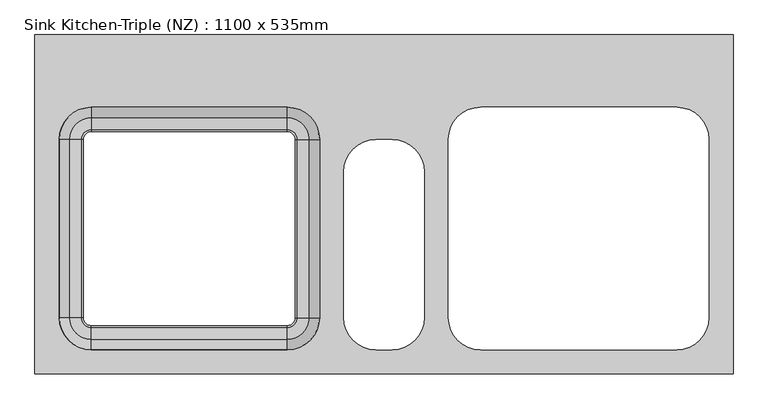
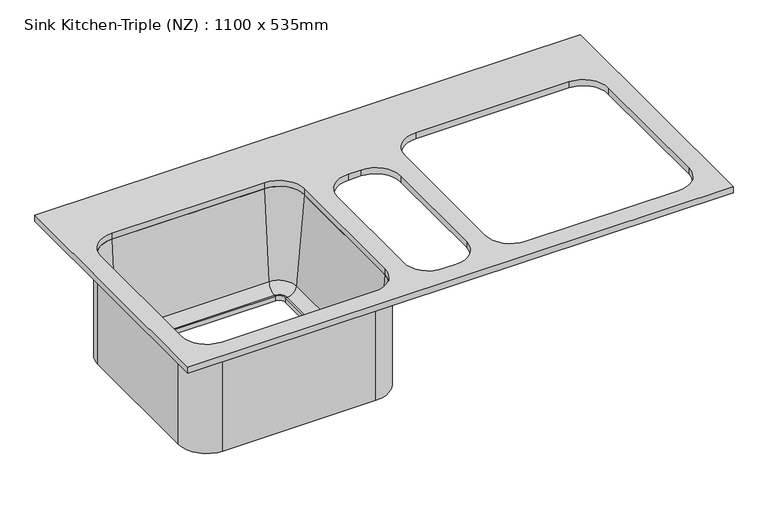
"""IFC4 building model written with IfcOpenShell, lengths in millimetres: flow terminal geometry, Sink Kitchen-Triple (NZ) : 1100 x 535mm."""

from ifc_helpers import new_model, si_unit, point, frame, frame_2d, origin, place, context, project, spatial, polyline, circle_curve, ellipse_curve, trimmed, segment, composite_curve, outline, extrude, source, transform, mapped, element, save
from ifc_brep_helpers import plane_surface, cylinder_surface, revolved_surface, advanced_brep


def sink_kitchen_triple_nz_1100_x_535mm_59c7ceb9(model_context):
    return source(origin(), model_context, "Body", "SolidModel", [
        advanced_brep(
        [(-79.5607594, 104.7454011, 684.1), (-136.7107594, 161.8954011, 684.1), (-136.7107594, 161.8954011, 900.0), (-79.5607594, 104.7454011, 900.0), (-124.0107594, 104.7454011, 684.1), (-136.7107594, 117.4454011, 684.1), (-124.0107594, 104.7454011, 693.625), (-136.7107594, 117.4454011, 693.625), (-121.4223412, 104.7454011, 693.625), (-136.7107594, 120.0338193, 693.625), (-102.4448322, 104.7454011, 711.0146831), (-136.7107594, 139.0113283, 711.0146831), (-85.9107594, 104.7454011, 900.0), (-136.7107594, 155.5454011, 900.0), (-79.5607594, -176.2545989, 900.0), (-79.5607594, -176.2545989, 684.1), (-124.0107594, -176.2545989, 684.1), (-124.0107594, -176.2545989, 693.625), (-121.4223412, -176.2545989, 693.625), (-102.4448322, -176.2545989, 711.0146831), (-85.9107594, -176.2545989, 900.0), (-136.7107594, -233.4045989, 684.1), (-136.7107594, -233.4045989, 900.0), (-136.7107594, -188.9545989, 684.1), (-136.7107594, -188.9545989, 693.625), (-136.7107594, -191.5430171, 693.625), (-136.7107594, -210.5205261, 711.0146831), (-136.7107594, -227.0545989, 900.0), (-445.4107594, -233.4045989, 900.0), (-445.4107594, -233.4045989, 684.1), (-445.4107594, -188.9545989, 684.1), (-445.4107594, -188.9545989, 693.625), (-445.4107594, -191.5430171, 693.625), (-445.4107594, -210.5205261, 711.0146831), (-445.4107594, -227.0545989, 900.0), (-502.5607594, -176.2545989, 684.1), (-502.5607594, -176.2545989, 900.0), (-458.1107594, -176.2545989, 684.1), (-458.1107594, -176.2545989, 693.625), (-460.6991776, -176.2545989, 693.625), (-479.6766866, -176.2545989, 711.0146831), (-496.2107594, -176.2545989, 900.0), (-502.5607594, 104.7454011, 900.0), (-502.5607594, 104.7454011, 684.1), (-458.1107594, 104.7454011, 684.1), (-458.1107594, 104.7454011, 693.625), (-460.6991776, 104.7454011, 693.625), (-479.6766866, 104.7454011, 711.0146831), (-496.2107594, 104.7454011, 900.0), (-445.4107594, 161.8954011, 684.1), (-445.4107594, 161.8954011, 900.0), (-445.4107594, 117.4454011, 684.1), (-445.4107594, 117.4454011, 693.625), (-445.4107594, 120.0338193, 693.625), (-445.4107594, 139.0113283, 711.0146831), (-445.4107594, 155.5454011, 900.0)],
        [
            (0, 1, circle_curve(frame((-136.7107594, 104.7454011, 684.1), z_axis=(0.0, 0.0, 1.0), x_axis=(0.0, 1.0, 0.0)), 57.15)),
            (1, 2),
            (2, 3, circle_curve(frame((-136.7107594, 104.7454011, 900.0), z_axis=(0.0, 0.0, -1.0), x_axis=(0.0, 1.0, 0.0)), 57.15)),
            (3, 0),
            (4, 5, circle_curve(frame((-136.7107594, 104.7454011, 684.1), z_axis=(0.0, 0.0, 1.0), x_axis=(0.0, 1.0, 0.0)), 12.7)),
            (5, 1),
            (0, 4),
            (6, 7, circle_curve(frame((-136.7107594, 104.7454011, 693.625), z_axis=(0.0, 0.0, 1.0), x_axis=(0.0, 1.0, 0.0)), 12.7)),
            (7, 5),
            (4, 6),
            (8, 9, circle_curve(frame((-136.7107594, 104.7454011, 693.625), z_axis=(0.0, 0.0, 1.0), x_axis=(0.0, 1.0, 0.0)), 15.2884182)),
            (9, 7),
            (6, 8),
            (10, 11, circle_curve(frame((-136.7107594, 104.7454011, 711.0146831), z_axis=(0.0, 0.0, 1.0), x_axis=(0.0, 1.0, 0.0)), 34.2659272)),
            (11, 9, circle_curve(frame((-136.7107594, 120.0338193, 712.675), z_axis=(-1.0, 0.0, 0.0), x_axis=(0.0, 1.0, 0.0)), 19.05)),
            (8, 10, circle_curve(frame((-121.4223412, 104.7454011, 712.675), z_axis=(0.0, -1.0, 0.0), x_axis=(1.0, 0.0, 0.0)), 19.05)),
            (12, 13, circle_curve(frame((-136.7107594, 104.7454011, 900.0), z_axis=(0.0, 0.0, 1.0), x_axis=(0.0, 1.0, 0.0)), 50.8)),
            (13, 11),
            (10, 12),
            (2, 13),
            (12, 3),
            (3, 14),
            (14, 15),
            (15, 0),
            (15, 16),
            (16, 4),
            (16, 17),
            (17, 6),
            (17, 18),
            (18, 8),
            (18, 19, circle_curve(frame((-121.4223412, -176.2545989, 712.675), z_axis=(0.0, -1.0, 0.0), x_axis=(1.0, 0.0, 0.0)), 19.05)),
            (19, 10),
            (19, 20),
            (20, 12),
            (20, 14),
            (21, 15, circle_curve(frame((-136.7107594, -176.2545989, 684.1), z_axis=(0.0, 0.0, 1.0), x_axis=(1.0, 0.0, 0.0)), 57.15)),
            (14, 22, circle_curve(frame((-136.7107594, -176.2545989, 900.0), z_axis=(0.0, 0.0, -1.0), x_axis=(1.0, 0.0, 0.0)), 57.15)),
            (22, 21),
            (23, 16, circle_curve(frame((-136.7107594, -176.2545989, 684.1), z_axis=(0.0, 0.0, 1.0), x_axis=(1.0, 0.0, 0.0)), 12.7)),
            (21, 23),
            (24, 17, circle_curve(frame((-136.7107594, -176.2545989, 693.625), z_axis=(0.0, 0.0, 1.0), x_axis=(1.0, 0.0, 0.0)), 12.7)),
            (23, 24),
            (25, 18, circle_curve(frame((-136.7107594, -176.2545989, 693.625), z_axis=(0.0, 0.0, 1.0), x_axis=(1.0, 0.0, 0.0)), 15.2884182)),
            (24, 25),
            (26, 19, circle_curve(frame((-136.7107594, -176.2545989, 711.0146831), z_axis=(0.0, 0.0, 1.0), x_axis=(1.0, 0.0, 0.0)), 34.2659272)),
            (25, 26, circle_curve(frame((-136.7107594, -191.5430171, 712.675), z_axis=(-1.0, 0.0, 0.0), x_axis=(0.0, -1.0, 0.0)), 19.05)),
            (27, 20, circle_curve(frame((-136.7107594, -176.2545989, 900.0), z_axis=(0.0, 0.0, 1.0), x_axis=(1.0, 0.0, 0.0)), 50.8)),
            (26, 27),
            (27, 22),
            (22, 28),
            (28, 29),
            (29, 21),
            (29, 30),
            (30, 23),
            (30, 31),
            (31, 24),
            (31, 32),
            (32, 25),
            (32, 33, circle_curve(frame((-445.4107594, -191.5430171, 712.675), z_axis=(-1.0, 0.0, 0.0), x_axis=(0.0, -1.0, 0.0)), 19.05)),
            (33, 26),
            (33, 34),
            (34, 27),
            (34, 28),
            (35, 29, circle_curve(frame((-445.4107594, -176.2545989, 684.1), z_axis=(0.0, 0.0, 1.0), x_axis=(0.0, -1.0, 0.0)), 57.15)),
            (28, 36, circle_curve(frame((-445.4107594, -176.2545989, 900.0), z_axis=(0.0, 0.0, -1.0), x_axis=(0.0, -1.0, 0.0)), 57.15)),
            (36, 35),
            (37, 30, circle_curve(frame((-445.4107594, -176.2545989, 684.1), z_axis=(0.0, 0.0, 1.0), x_axis=(0.0, -1.0, 0.0)), 12.7)),
            (35, 37),
            (38, 31, circle_curve(frame((-445.4107594, -176.2545989, 693.625), z_axis=(0.0, 0.0, 1.0), x_axis=(0.0, -1.0, 0.0)), 12.7)),
            (37, 38),
            (39, 32, circle_curve(frame((-445.4107594, -176.2545989, 693.625), z_axis=(0.0, 0.0, 1.0), x_axis=(0.0, -1.0, 0.0)), 15.2884182)),
            (38, 39),
            (40, 33, circle_curve(frame((-445.4107594, -176.2545989, 711.0146831), z_axis=(0.0, 0.0, 1.0), x_axis=(0.0, -1.0, 0.0)), 34.2659272)),
            (39, 40, circle_curve(frame((-460.6991776, -176.2545989, 712.675), z_axis=(0.0, 1.0, 0.0), x_axis=(-1.0, 0.0, 0.0)), 19.05)),
            (41, 34, circle_curve(frame((-445.4107594, -176.2545989, 900.0), z_axis=(0.0, 0.0, 1.0), x_axis=(0.0, -1.0, 0.0)), 50.8)),
            (40, 41),
            (41, 36),
            (36, 42),
            (42, 43),
            (43, 35),
            (43, 44),
            (44, 37),
            (44, 45),
            (45, 38),
            (45, 46),
            (46, 39),
            (46, 47, circle_curve(frame((-460.6991776, 104.7454011, 712.675), z_axis=(0.0, 1.0, 0.0), x_axis=(-1.0, 0.0, 0.0)), 19.05)),
            (47, 40),
            (47, 48),
            (48, 41),
            (48, 42),
            (49, 43, circle_curve(frame((-445.4107594, 104.7454011, 684.1), z_axis=(0.0, 0.0, 1.0), x_axis=(-1.0, 0.0, 0.0)), 57.15)),
            (42, 50, circle_curve(frame((-445.4107594, 104.7454011, 900.0), z_axis=(0.0, 0.0, -1.0), x_axis=(-1.0, 0.0, 0.0)), 57.15)),
            (50, 49),
            (51, 44, circle_curve(frame((-445.4107594, 104.7454011, 684.1), z_axis=(0.0, 0.0, 1.0), x_axis=(-1.0, 0.0, 0.0)), 12.7)),
            (49, 51),
            (52, 45, circle_curve(frame((-445.4107594, 104.7454011, 693.625), z_axis=(0.0, 0.0, 1.0), x_axis=(-1.0, 0.0, 0.0)), 12.7)),
            (51, 52),
            (53, 46, circle_curve(frame((-445.4107594, 104.7454011, 693.625), z_axis=(0.0, 0.0, 1.0), x_axis=(-1.0, 0.0, 0.0)), 15.2884182)),
            (52, 53),
            (54, 47, circle_curve(frame((-445.4107594, 104.7454011, 711.0146831), z_axis=(0.0, 0.0, 1.0), x_axis=(-1.0, 0.0, 0.0)), 34.2659272)),
            (53, 54, circle_curve(frame((-445.4107594, 120.0338193, 712.675), z_axis=(1.0, 0.0, 0.0), x_axis=(0.0, 1.0, 0.0)), 19.05)),
            (55, 48, circle_curve(frame((-445.4107594, 104.7454011, 900.0), z_axis=(0.0, 0.0, 1.0), x_axis=(-1.0, 0.0, 0.0)), 50.8)),
            (54, 55),
            (55, 50),
            (50, 2),
            (1, 49),
            (5, 51),
            (7, 52),
            (9, 53),
            (11, 54),
            (13, 55),
        ],
        [
            cylinder_surface(frame((-136.7107594, 104.7454011, 0.0), z_axis=(0.0, 0.0, -1.0), x_axis=(0.0, 1.0, 0.0)), 57.15),
            plane_surface(frame((-136.7107594, 104.7454011, 684.1), z_axis=(0.0, 0.0, -1.0), x_axis=(0.0, 1.0, 0.0))),
            revolved_surface(polyline([(-136.7107594, 117.4454011, 684.1), (-136.7107594, 117.4454011, 693.625)]), (-136.7107594, 104.7454011, 0.0), (0.0, 0.0, -1.0)),
            plane_surface(frame((-136.7107594, 104.7454011, 693.625), z_axis=(0.0, 0.0, 1.0), x_axis=(0.0, 1.0, 0.0))),
            revolved_surface(trimmed(ellipse_curve(frame((-136.7107594, 120.0338193, 712.675), z_axis=(1.0, 0.0, 0.0), x_axis=(0.0, 1.0, 0.0)), 19.05, 19.05), [point((-136.7107594, 120.0338193, 693.625))], [point((-136.7107594, 139.0113283, 711.0146831))], True, "CARTESIAN"), (-136.7107594, 104.7454011, 0.0), (0.0, 0.0, -1.0)),
            revolved_surface(polyline([(-136.7107594, 139.0113283, 711.0146831), (-136.7107594, 155.5454011, 900.0)]), (-136.7107594, 104.7454011, 0.0), (0.0, 0.0, -1.0)),
            plane_surface(frame((-136.7107594, 104.7454011, 900.0), z_axis=(0.0, 0.0, 1.0), x_axis=(0.0, 1.0, 0.0))),
            plane_surface(frame((-79.5607594, 104.7454011, 900.0), z_axis=(1.0, 0.0, 0.0), x_axis=(0.0, -1.0, 0.0))),
            plane_surface(frame((-79.5607594, 104.7454011, 684.1), z_axis=(0.0, 0.0, -1.0), x_axis=(0.0, -1.0, 0.0))),
            plane_surface(frame((-124.0107594, 104.7454011, 684.1), z_axis=(-1.0, 0.0, 0.0), x_axis=(0.0, -1.0, 0.0))),
            plane_surface(frame((-124.0107594, 104.7454011, 693.625), z_axis=(0.0, 0.0, 1.0), x_axis=(0.0, -1.0, 0.0))),
            revolved_surface(polyline([(-102.37234120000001, -176.25459890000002, 712.675), (-102.37234120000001, 104.7454011, 712.675)]), (-121.4223412, 104.7454011, 712.675), (0.0, -1.0, 0.0)),
            plane_surface(frame((-102.4448322, 104.7454011, 711.0146831), z_axis=(-0.9961946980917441, 0.0, 0.08715574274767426), x_axis=(0.0, -1.0, 0.0))),
            plane_surface(frame((-85.9107594, 104.7454011, 900.0), z_axis=(0.0, 0.0, 1.0), x_axis=(0.0, -1.0, 0.0))),
            cylinder_surface(frame((-136.7107594, -176.2545989, 0.0), z_axis=(0.0, 0.0, -1.0), x_axis=(1.0, 0.0, 0.0)), 57.15),
            plane_surface(frame((-136.7107594, -176.2545989, 684.1), z_axis=(0.0, 0.0, -1.0), x_axis=(1.0, 0.0, 0.0))),
            revolved_surface(polyline([(-124.0107594, -176.2545989, 684.1), (-124.0107594, -176.2545989, 693.625)]), (-136.7107594, -176.2545989, 0.0), (0.0, 0.0, -1.0)),
            plane_surface(frame((-136.7107594, -176.2545989, 693.625), z_axis=(0.0, 0.0, 1.0), x_axis=(1.0, 0.0, 0.0))),
            revolved_surface(trimmed(ellipse_curve(frame((-121.4223412, -176.2545989, 712.675), z_axis=(0.0, -1.0, 0.0), x_axis=(1.0, 0.0, 0.0)), 19.05, 19.05), [point((-121.4223412, -176.2545989, 693.625))], [point((-102.4448322, -176.2545989, 711.0146831))], True, "CARTESIAN"), (-136.7107594, -176.2545989, 0.0), (0.0, 0.0, -1.0)),
            revolved_surface(polyline([(-102.4448322, -176.2545989, 711.0146831), (-85.9107594, -176.2545989, 900.0)]), (-136.7107594, -176.2545989, 0.0), (0.0, 0.0, -1.0)),
            plane_surface(frame((-136.7107594, -176.2545989, 900.0), z_axis=(0.0, 0.0, 1.0), x_axis=(1.0, 0.0, 0.0))),
            plane_surface(frame((-136.7107594, -233.4045989, 900.0), z_axis=(0.0, -1.0, 0.0), x_axis=(-1.0, 0.0, 0.0))),
            plane_surface(frame((-136.7107594, -233.4045989, 684.1), z_axis=(0.0, 0.0, -1.0), x_axis=(-1.0, 0.0, 0.0))),
            plane_surface(frame((-136.7107594, -188.9545989, 684.1), z_axis=(0.0, 1.0, 0.0), x_axis=(-1.0, 0.0, 0.0))),
            plane_surface(frame((-136.7107594, -188.9545989, 693.625), z_axis=(0.0, 0.0, 1.0), x_axis=(-1.0, 0.0, 0.0))),
            revolved_surface(polyline([(-445.4107594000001, -210.5930171, 712.675), (-136.7107594, -210.5930171, 712.675)]), (-136.7107594, -191.5430171, 712.675), (-1.0, 0.0, 0.0)),
            plane_surface(frame((-136.7107594, -210.5205261, 711.0146831), z_axis=(0.0, 0.9961946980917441, 0.08715574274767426), x_axis=(-1.0, 0.0, 0.0))),
            plane_surface(frame((-136.7107594, -227.0545989, 900.0), z_axis=(0.0, 0.0, 1.0), x_axis=(-1.0, 0.0, 0.0))),
            cylinder_surface(frame((-445.4107594, -176.2545989, 0.0), z_axis=(0.0, 0.0, -1.0), x_axis=(0.0, -1.0, 0.0)), 57.15),
            plane_surface(frame((-445.4107594, -176.2545989, 684.1), z_axis=(0.0, 0.0, -1.0), x_axis=(0.0, -1.0, 0.0))),
            revolved_surface(polyline([(-445.4107594, -188.95459889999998, 684.1), (-445.4107594, -188.95459889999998, 693.625)]), (-445.4107594, -176.2545989, 0.0), (0.0, 0.0, -1.0)),
            plane_surface(frame((-445.4107594, -176.2545989, 693.625), z_axis=(0.0, 0.0, 1.0), x_axis=(0.0, -1.0, 0.0))),
            revolved_surface(trimmed(ellipse_curve(frame((-445.4107594, -191.5430171, 712.675), z_axis=(-1.0, 0.0, 0.0), x_axis=(0.0, -1.0, 0.0)), 19.05, 19.05), [point((-445.4107594, -191.5430171, 693.625))], [point((-445.4107594, -210.5205261, 711.0146831))], True, "CARTESIAN"), (-445.4107594, -176.2545989, 0.0), (0.0, 0.0, -1.0)),
            revolved_surface(polyline([(-445.4107594, -210.5205261, 711.0146831), (-445.4107594, -227.0545989, 900.0)]), (-445.4107594, -176.2545989, 0.0), (0.0, 0.0, -1.0)),
            plane_surface(frame((-445.4107594, -176.2545989, 900.0), z_axis=(0.0, 0.0, 1.0), x_axis=(0.0, -1.0, 0.0))),
            plane_surface(frame((-502.5607594, -176.2545989, 900.0), z_axis=(-1.0, 0.0, 0.0), x_axis=(0.0, 1.0, 0.0))),
            plane_surface(frame((-502.5607594, -176.2545989, 684.1), z_axis=(0.0, 0.0, -1.0), x_axis=(0.0, 1.0, 0.0))),
            plane_surface(frame((-458.1107594, -176.2545989, 684.1), z_axis=(1.0, 0.0, 0.0), x_axis=(0.0, 1.0, 0.0))),
            plane_surface(frame((-458.1107594, -176.2545989, 693.625), z_axis=(0.0, 0.0, 1.0), x_axis=(0.0, 1.0, 0.0))),
            revolved_surface(polyline([(-479.7491776, 104.74540110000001, 712.675), (-479.7491776, -176.2545989, 712.675)]), (-460.6991776, -176.2545989, 712.675), (0.0, 1.0, 0.0)),
            plane_surface(frame((-479.6766866, -176.2545989, 711.0146831), z_axis=(0.9961946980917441, 0.0, 0.08715574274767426), x_axis=(0.0, 1.0, 0.0))),
            plane_surface(frame((-496.2107594, -176.2545989, 900.0), z_axis=(0.0, 0.0, 1.0), x_axis=(0.0, 1.0, 0.0))),
            cylinder_surface(frame((-445.4107594, 104.7454011, 0.0), z_axis=(0.0, 0.0, -1.0), x_axis=(-1.0, 0.0, 0.0)), 57.15),
            plane_surface(frame((-445.4107594, 104.7454011, 684.1), z_axis=(0.0, 0.0, -1.0), x_axis=(-1.0, 0.0, 0.0))),
            revolved_surface(polyline([(-458.1107594, 104.7454011, 684.1), (-458.1107594, 104.7454011, 693.625)]), (-445.4107594, 104.7454011, 0.0), (0.0, 0.0, -1.0)),
            plane_surface(frame((-445.4107594, 104.7454011, 693.625), z_axis=(0.0, 0.0, 1.0), x_axis=(-1.0, 0.0, 0.0))),
            revolved_surface(trimmed(ellipse_curve(frame((-460.6991776, 104.7454011, 712.675), z_axis=(0.0, 1.0, 0.0), x_axis=(-1.0, 0.0, 0.0)), 19.05, 19.05), [point((-460.6991776, 104.7454011, 693.625))], [point((-479.6766866, 104.7454011, 711.0146831))], True, "CARTESIAN"), (-445.4107594, 104.7454011, 0.0), (0.0, 0.0, -1.0)),
            revolved_surface(polyline([(-479.6766866, 104.7454011, 711.0146831), (-496.2107594, 104.7454011, 900.0)]), (-445.4107594, 104.7454011, 0.0), (0.0, 0.0, -1.0)),
            plane_surface(frame((-445.4107594, 104.7454011, 900.0), z_axis=(0.0, 0.0, 1.0), x_axis=(-1.0, 0.0, 0.0))),
            plane_surface(frame((-445.4107594, 161.8954011, 900.0), z_axis=(0.0, 1.0, 0.0), x_axis=(1.0, 0.0, 0.0))),
            plane_surface(frame((-445.4107594, 161.8954011, 684.1), z_axis=(0.0, 0.0, -1.0), x_axis=(1.0, 0.0, 0.0))),
            plane_surface(frame((-445.4107594, 117.4454011, 684.1), z_axis=(0.0, -1.0, 0.0), x_axis=(1.0, 0.0, 0.0))),
            plane_surface(frame((-445.4107594, 117.4454011, 693.625), z_axis=(0.0, 0.0, 1.0), x_axis=(1.0, 0.0, 0.0))),
            revolved_surface(polyline([(-136.71075939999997, 139.08381930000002, 712.675), (-445.4107594, 139.08381930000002, 712.675)]), (-445.4107594, 120.0338193, 712.675), (1.0, 0.0, 0.0)),
            plane_surface(frame((-445.4107594, 139.0113283, 711.0146831), z_axis=(0.0, -0.9961946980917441, 0.08715574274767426), x_axis=(1.0, 0.0, 0.0))),
            plane_surface(frame((-445.4107594, 155.5454011, 900.0), z_axis=(0.0, 0.0, 1.0), x_axis=(1.0, 0.0, 0.0))),
        ],
        [
            (0, [[1, 2, 3, 4]]),
            (1, [[5, 6, -1, 7]]),
            (2, [[8, 9, -5, 10]]),
            (3, [[11, 12, -8, 13]]),
            (4, [[14, 15, -11, 16]]),
            (5, [[17, 18, -14, 19]]),
            (6, [[-3, 20, -17, 21]]),
            (7, [[-4, 22, 23, 24]]),
            (8, [[-7, -24, 25, 26]]),
            (9, [[-10, -26, 27, 28]]),
            (10, [[-13, -28, 29, 30]]),
            (11, [[-16, -30, 31, 32]]),
            (12, [[-19, -32, 33, 34]]),
            (13, [[-21, -34, 35, -22]]),
            (14, [[36, -23, 37, 38]]),
            (15, [[39, -25, -36, 40]]),
            (16, [[41, -27, -39, 42]]),
            (17, [[43, -29, -41, 44]]),
            (18, [[45, -31, -43, 46]]),
            (19, [[47, -33, -45, 48]]),
            (20, [[-37, -35, -47, 49]]),
            (21, [[-38, 50, 51, 52]]),
            (22, [[-40, -52, 53, 54]]),
            (23, [[-42, -54, 55, 56]]),
            (24, [[-44, -56, 57, 58]]),
            (25, [[-46, -58, 59, 60]]),
            (26, [[-48, -60, 61, 62]]),
            (27, [[-49, -62, 63, -50]]),
            (28, [[64, -51, 65, 66]]),
            (29, [[67, -53, -64, 68]]),
            (30, [[69, -55, -67, 70]]),
            (31, [[71, -57, -69, 72]]),
            (32, [[73, -59, -71, 74]]),
            (33, [[75, -61, -73, 76]]),
            (34, [[-65, -63, -75, 77]]),
            (35, [[-66, 78, 79, 80]]),
            (36, [[-68, -80, 81, 82]]),
            (37, [[-70, -82, 83, 84]]),
            (38, [[-72, -84, 85, 86]]),
            (39, [[-74, -86, 87, 88]]),
            (40, [[-76, -88, 89, 90]]),
            (41, [[-77, -90, 91, -78]]),
            (42, [[92, -79, 93, 94]]),
            (43, [[95, -81, -92, 96]]),
            (44, [[97, -83, -95, 98]]),
            (45, [[99, -85, -97, 100]]),
            (46, [[101, -87, -99, 102]]),
            (47, [[103, -89, -101, 104]]),
            (48, [[-93, -91, -103, 105]]),
            (49, [[-94, 106, -2, 107]]),
            (50, [[-96, -107, -6, 108]]),
            (51, [[-98, -108, -9, 109]]),
            (52, [[-100, -109, -12, 110]]),
            (53, [[-102, -110, -15, 111]]),
            (54, [[-104, -111, -18, 112]]),
            (55, [[-105, -112, -20, -106]]),
        ],
    ),
        extrude(outline(polyline([(565.6892406, 269.8454011), (565.6892406, -265.1545989), (-534.3107594, -265.1545989), (-534.3107594, 269.8454011), (565.6892406, 269.8454011)]), holes=[composite_curve([segment(polyline([(-136.7107594, 155.5454011), (-445.4107594, 155.5454011)]), True, "CONTINUOUS"), segment(trimmed(circle_curve(frame_2d((-445.4107594, 104.7454011)), 50.8), [point((-445.4107594, 155.5454011))], [point((-496.2107594, 104.7454011))], True, "CARTESIAN"), True, "CONTINUOUS"), segment(polyline([(-496.2107594, 104.7454011), (-496.2107594, -176.2545989)]), True, "CONTINUOUS"), segment(trimmed(circle_curve(frame_2d((-445.4107594, -176.2545989)), 50.8), [point((-496.2107594, -176.2545989))], [point((-445.4107594, -227.0545989))], True, "CARTESIAN"), True, "CONTINUOUS"), segment(polyline([(-445.4107594, -227.0545989), (-136.7107594, -227.0545989)]), True, "CONTINUOUS"), segment(trimmed(circle_curve(frame_2d((-136.7107594, -176.2545989)), 50.8), [point((-136.7107594, -227.0545989))], [point((-85.9107594, -176.2545989))], True, "CARTESIAN"), True, "CONTINUOUS"), segment(polyline([(-85.9107594, -176.2545989), (-85.9107594, 104.7454011)]), True, "CONTINUOUS"), segment(trimmed(circle_curve(frame_2d((-136.7107594, 104.7454011)), 50.8), [point((-85.9107594, 104.7454011))], [point((-136.7107594, 155.5454011))], True, "CARTESIAN"), True, "CONTINUOUS")], self_intersect=False), composite_curve([segment(polyline([(168.0892406, -227.0545989), (476.7892406, -227.0545989)]), True, "CONTINUOUS"), segment(trimmed(circle_curve(frame_2d((476.7892406, -176.2545989)), 50.8), [point((476.7892406, -227.0545989))], [point((527.5892406, -176.2545989))], True, "CARTESIAN"), True, "CONTINUOUS"), segment(polyline([(527.5892406, -176.2545989), (527.5892406, 104.7454011)]), True, "CONTINUOUS"), segment(trimmed(circle_curve(frame_2d((476.7892406, 104.7454011)), 50.8), [point((527.5892406, 104.7454011))], [point((476.7892406, 155.5454011))], True, "CARTESIAN"), True, "CONTINUOUS"), segment(polyline([(476.7892406, 155.5454011), (168.0892406, 155.5454011)]), True, "CONTINUOUS"), segment(trimmed(circle_curve(frame_2d((168.0892406, 104.7454011)), 50.8), [point((168.0892406, 155.5454011))], [point((117.2892406, 104.7454011))], True, "CARTESIAN"), True, "CONTINUOUS"), segment(polyline([(117.2892406, 104.7454011), (117.2892406, -176.2545989)]), True, "CONTINUOUS"), segment(trimmed(circle_curve(frame_2d((168.0892406, -176.2545989)), 50.8), [point((117.2892406, -176.2545989))], [point((168.0892406, -227.0545989))], True, "CARTESIAN"), True, "CONTINUOUS")], self_intersect=False), composite_curve([segment(trimmed(circle_curve(frame_2d((28.3892406, -176.2545989)), 50.8), [point((28.3892406, -227.0545989))], [point((79.1892406, -176.2545989))], True, "CARTESIAN"), True, "CONTINUOUS"), segment(polyline([(79.1892406, -176.2545989), (79.1892406, 53.9454011)]), True, "CONTINUOUS"), segment(trimmed(circle_curve(frame_2d((28.3892406, 53.9454011)), 50.8), [point((79.1892406, 53.9454011))], [point((28.3892406, 104.7454011))], True, "CARTESIAN"), True, "CONTINUOUS"), segment(polyline([(28.3892406, 104.7454011), (2.9892406, 104.7454011)]), True, "CONTINUOUS"), segment(trimmed(circle_curve(frame_2d((2.9892406, 53.9454011)), 50.8), [point((2.9892406, 104.7454011))], [point((-47.8107594, 53.9454011))], True, "CARTESIAN"), True, "CONTINUOUS"), segment(polyline([(-47.8107594, 53.9454011), (-47.8107594, -176.2545989)]), True, "CONTINUOUS"), segment(trimmed(circle_curve(frame_2d((2.9892406, -176.2545989)), 50.8), [point((-47.8107594, -176.2545989))], [point((2.9892406, -227.0545989))], True, "CARTESIAN"), True, "CONTINUOUS"), segment(polyline([(2.9892406, -227.0545989), (28.3892406, -227.0545989)]), True, "CONTINUOUS")], self_intersect=False)]), frame((0.0, 0.0, 900.0), z_axis=(0.0, 0.0, 1.0), x_axis=(1.0, 0.0, 0.0)), (0.0, 0.0, 1.0), 12.7),
    ])


if __name__ == "__main__":
    model = new_model("IFC4")
    model_context = context("Model", 3, world=origin())
    ifc_project = project(units=[si_unit("LENGTHUNIT", "METRE", prefix="MILLI")], contexts=[model_context])
    site = spatial("IfcSite", under=ifc_project)
    building = spatial("IfcBuilding", under=site)
    placement = place(None, origin())
    sink_kitchen_triple_nz_1100_x_535mm_shape = sink_kitchen_triple_nz_1100_x_535mm_59c7ceb9(model_context)
    element("IfcFlowTerminal", 1, ObjectType="Sink Kitchen-Triple (NZ) : 1100 x 535mm", at=placement, inside=building, context=model_context, shape_type="MappedRepresentation", body=[
        mapped(sink_kitchen_triple_nz_1100_x_535mm_shape, transform((0.0, 0.0, 0.0), x_axis=(1.0, 0.0, 0.0), y_axis=(0.0, 1.0, 0.0), z_axis=(0.0, 0.0, 1.0))),
    ])
    save(model, "model.ifc")
